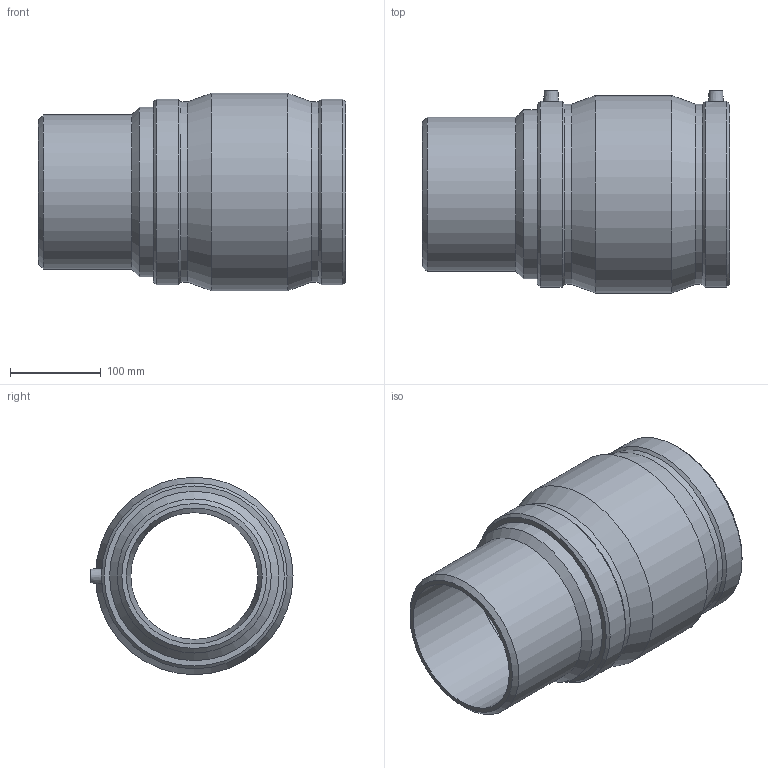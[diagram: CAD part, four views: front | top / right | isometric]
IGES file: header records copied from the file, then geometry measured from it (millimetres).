
Global section: file name: 495704180150.ipt; native system: Autodesk Inventor 2015; preprocessor: unknown; author: KIM; date: 20180502.161909; units: millimetre
Bounding box: 339 x 223 x 218 mm (x, y, z)
Volume: 3823603.6 mm3; surface area: 416297.7 mm2
Topology: 1 solids, 2 shells, 43 faces, 92 edges, 60 vertices
Faces by surface type: plane 13, cylinder 11, cone 10, revolution 9
Full cylindrical faces by diameter (mm): 4 x2, 170 x1, 180 x2, 187 x1, 198.772 x2, 204.92 x2, 218 x1
